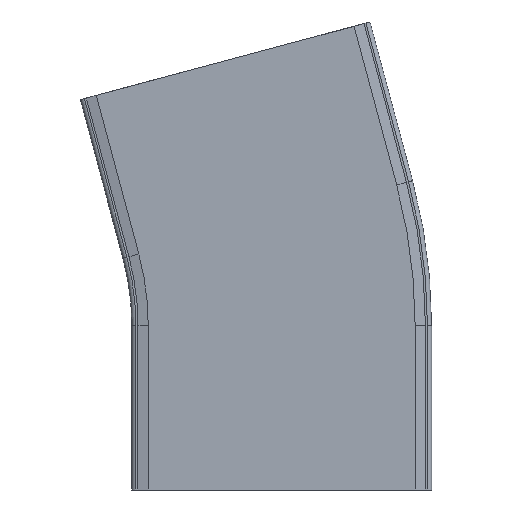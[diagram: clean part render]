
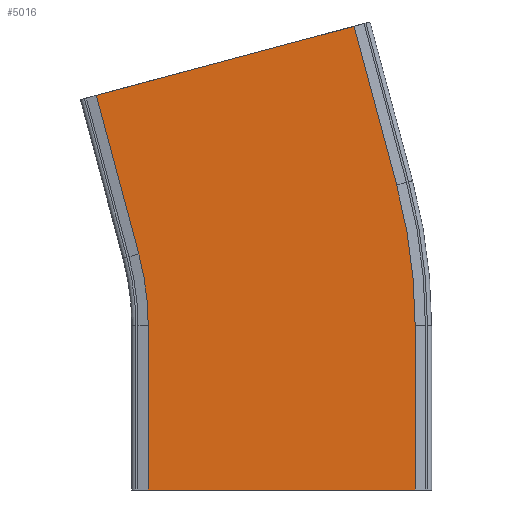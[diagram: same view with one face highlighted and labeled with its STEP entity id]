
A CAD part, front view. The second image highlights one B-rep face of the part: STEP entity #5016.
In plain terms, the highlighted planar face has unit normal (0, -1, 0).
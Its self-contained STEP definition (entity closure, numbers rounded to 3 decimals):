
#4773=CARTESIAN_POINT('',(104.,-74.,0.0));
#4774=VERTEX_POINT('',#4773);
#4781=CARTESIAN_POINT('',(-26.,-74.,0.0));
#4782=VERTEX_POINT('',#4781);
#4783=CARTESIAN_POINT('',(-26.,-74.,0.0));
#4784=DIRECTION('',(1.0,0.0,0.0));
#4785=VECTOR('',#4784,130.);
#4786=LINE('',#4783,#4785);
#4787=EDGE_CURVE('',#4782,#4774,#4786,.T.);
#4842=CARTESIAN_POINT('',(-26.,-74.,80.0));
#4843=VERTEX_POINT('',#4842);
#4852=CARTESIAN_POINT('',(-26.,-74.,0.0));
#4853=DIRECTION('',(0.0,0.0,1.0));
#4854=VECTOR('',#4853,80.0);
#4855=LINE('',#4852,#4854);
#4856=EDGE_CURVE('',#4782,#4843,#4855,.T.);
#4866=CARTESIAN_POINT('',(104.,-74.,80.0));
#4867=VERTEX_POINT('',#4866);
#4876=CARTESIAN_POINT('',(104.,-74.,0.0));
#4877=DIRECTION('',(0.0,0.0,1.0));
#4878=VECTOR('',#4877,80.0);
#4879=LINE('',#4876,#4878);
#4880=EDGE_CURVE('',#4774,#4867,#4879,.T.);
#4899=CARTESIAN_POINT('',(-30.6,-74.,114.941));
#4900=VERTEX_POINT('',#4899);
#4915=CARTESIAN_POINT('',(-161.,-74.,80.0));
#4916=DIRECTION('',(0.0,-1.0,0.0));
#4917=DIRECTION('',(1.0,0.0,0.0));
#4918=AXIS2_PLACEMENT_3D('',#4915,#4916,#4917);
#4919=CIRCLE('',#4918,135.);
#4920=EDGE_CURVE('',#4843,#4900,#4919,.T.);
#4974=CARTESIAN_POINT('',(129.228,-74.,20.737));
#4975=DIRECTION('',(0.0,-1.0,0.0));
#4976=DIRECTION('',(0.259,0.0,-0.966));
#4977=AXIS2_PLACEMENT_3D('',#4974,#4975,#4976);
#4978=PLANE('',#4977);
#4979=CARTESIAN_POINT('',(74.265,-74.,225.861));
#4980=VERTEX_POINT('',#4979);
#4981=CARTESIAN_POINT('',(-51.306,-74.0,192.215));
#4982=VERTEX_POINT('',#4981);
#4983=CARTESIAN_POINT('',(74.265,-74.,225.861));
#4984=DIRECTION('',(-0.966,0.,-0.259));
#4985=VECTOR('',#4984,130.);
#4986=LINE('',#4983,#4985);
#4987=EDGE_CURVE('',#4980,#4982,#4986,.T.);
#4988=ORIENTED_EDGE('',*,*,#4987,.T.);
#4989=CARTESIAN_POINT('',(-30.6,-74.0,114.941));
#4990=DIRECTION('',(-0.259,0.,0.966));
#4991=VECTOR('',#4990,80.);
#4992=LINE('',#4989,#4991);
#4993=EDGE_CURVE('',#4900,#4982,#4992,.T.);
#4994=ORIENTED_EDGE('',*,*,#4993,.F.);
#4995=ORIENTED_EDGE('',*,*,#4920,.F.);
#4996=ORIENTED_EDGE('',*,*,#4856,.F.);
#4997=ORIENTED_EDGE('',*,*,#4787,.T.);
#4998=ORIENTED_EDGE('',*,*,#4880,.T.);
#4999=CARTESIAN_POINT('',(94.97,-74.,148.587));
#5000=VERTEX_POINT('',#4999);
#5001=CARTESIAN_POINT('',(-161.,-74.,80.0));
#5002=DIRECTION('',(0.0,-1.0,0.0));
#5003=DIRECTION('',(1.0,0.0,0.0));
#5004=AXIS2_PLACEMENT_3D('',#5001,#5002,#5003);
#5005=CIRCLE('',#5004,265.);
#5006=EDGE_CURVE('',#4867,#5000,#5005,.T.);
#5007=ORIENTED_EDGE('',*,*,#5006,.T.);
#5008=CARTESIAN_POINT('',(94.97,-74.,148.587));
#5009=DIRECTION('',(-0.259,0.,0.966));
#5010=VECTOR('',#5009,80.);
#5011=LINE('',#5008,#5010);
#5012=EDGE_CURVE('',#5000,#4980,#5011,.T.);
#5013=ORIENTED_EDGE('',*,*,#5012,.T.);
#5014=EDGE_LOOP('',(#4988,#4994,#4995,#4996,#4997,#4998,#5007,#5013));
#5015=FACE_OUTER_BOUND('',#5014,.T.);
#5016=ADVANCED_FACE('',(#5015),#4978,.T.);
